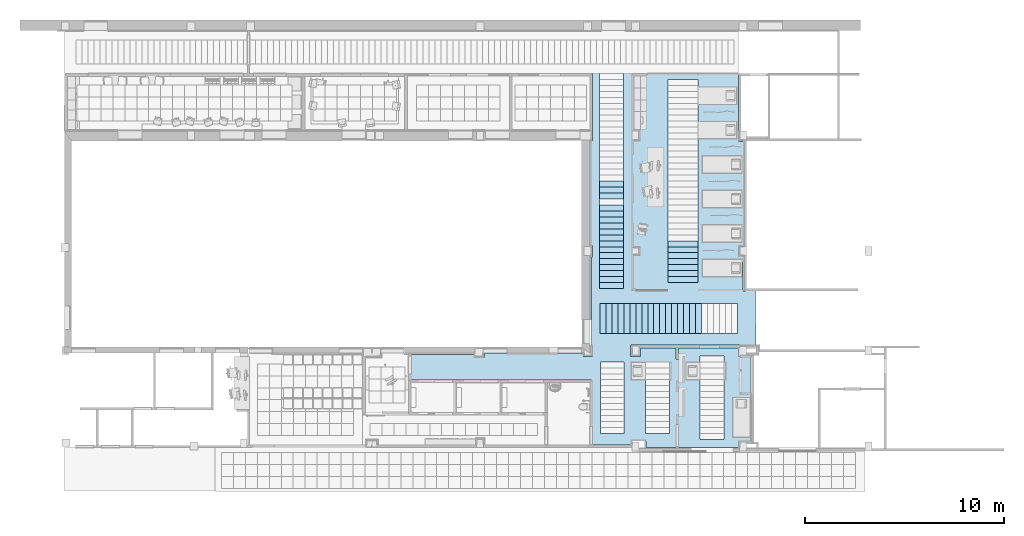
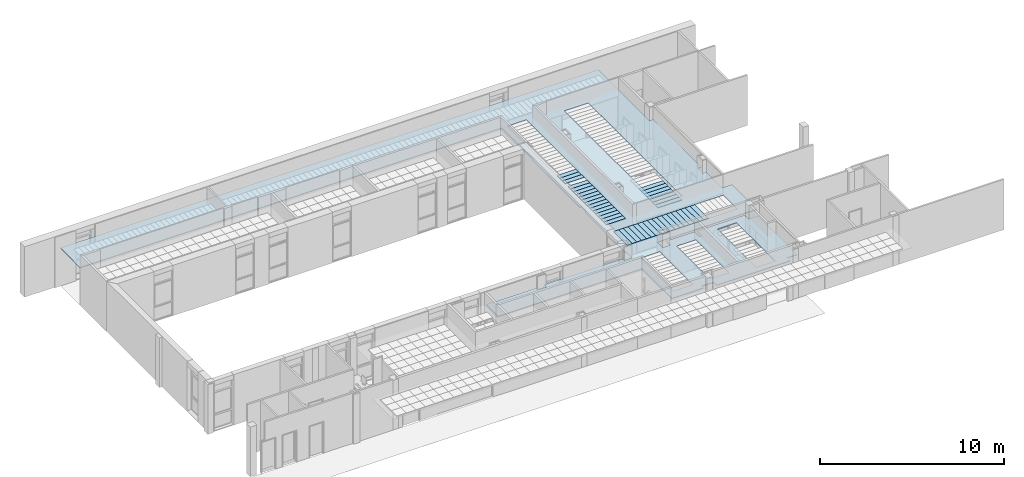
# One storey, part 3 of 68: 42 slabs.
"""IFC2X3 building model written with IfcOpenShell, lengths in millimetres."""

from ifc_helpers import new_model, entity, si_unit, converted_unit, derived_unit, money_unit, direction, frame, origin_with_axes, place, context, subcontext, project, spatial, polyline, outline, extrude, material, layer, layer_set, layer_usage, type_object, element, save


model = new_model("IFC2X3")

# Units and contexts
model_context = context("Model", 3, precision=0.01, world=origin_with_axes(), true_north=direction((0.0, 1.0)))
body_context = subcontext(model_context, "Body", "Model", "MODEL_VIEW")
ifc_project = project(units=[si_unit("LENGTHUNIT", "METRE", prefix="MILLI"), si_unit("AREAUNIT", "SQUARE_METRE"), si_unit("VOLUMEUNIT", "CUBIC_METRE"), converted_unit("PLANEANGLEUNIT", "DEGREE", entity("IfcPlaneAngleMeasure", 0.0174532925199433), si_unit("PLANEANGLEUNIT", "RADIAN"), dimensions=[0, 0, 0, 0, 0, 0, 0]), money_unit("USD"), converted_unit("TIMEUNIT", "Year", entity("IfcTimeMeasure", 31557600.0), si_unit("TIMEUNIT", "SECOND"), dimensions=[0, 0, 1, 0, 0, 0, 0]), si_unit("MASSUNIT", "GRAM", prefix="KILO"), si_unit("THERMODYNAMICTEMPERATUREUNIT", "DEGREE_CELSIUS"), si_unit("LUMINOUSINTENSITYUNIT", "LUMEN"), si_unit("ENERGYUNIT", "JOULE", prefix="MEGA"), derived_unit("THERMALCONDUCTANCEUNIT", [(si_unit("POWERUNIT", "WATT"), 1), (si_unit("LENGTHUNIT", "METRE"), -1), (si_unit("THERMODYNAMICTEMPERATUREUNIT", "KELVIN"), -1)]), derived_unit("SPECIFICHEATCAPACITYUNIT", [(si_unit("ENERGYUNIT", "JOULE"), 1), (si_unit("MASSUNIT", "GRAM", prefix="KILO"), -1), (si_unit("THERMODYNAMICTEMPERATUREUNIT", "KELVIN"), -1)]), derived_unit("MASSDENSITYUNIT", [(si_unit("MASSUNIT", "GRAM", prefix="KILO"), 1), (si_unit("VOLUMEUNIT", "CUBIC_METRE"), -1)])], contexts=[model_context])

# Site, building, storey
site_placement = place(None, origin_with_axes())
site = spatial("IfcSite", under=ifc_project, at=site_placement, Name="Sitio", CompositionType="ELEMENT")
building_placement = place(site_placement, origin_with_axes())
building = spatial("IfcBuilding", under=site, at=building_placement, Name="Construcción", CompositionType="ELEMENT")
storey_placement = place(building_placement, origin_with_axes())
storey = spatial("IfcBuildingStorey", under=building, at=storey_placement, Name="PLANTA 1ª", CompositionType="ELEMENT", Elevation=0.0)

# Slabs
ifc_material_1 = material(Name="ARQ_ME126_CelRas_Placa_Metallica")
ifc_layer_1 = layer(ifc_material_1, 50.0, ventilated="UNKNOWN")
ifc_layer_set_1 = layer_set([ifc_layer_1], Name="ARQ_ME126_CelRas_Placa_Metallica 50")
ifc_layer_usage_1 = layer_usage(ifc_layer_set_1, "AXIS3", "NEGATIVE", 50.0)
slab_type_1 = type_object("IfcSlabType", Name="ARQ_ME126_CelRas_Placa_Metallica 50", PredefinedType="NOTDEFINED")
slab_1_placement = place(storey_placement, frame((-881.1090049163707, -11348.19832695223, 2500.0), z_axis=(0.0, 0.0, 1.0), x_axis=(1.0, 0.0, 0.0)))
element("IfcSlab", 1, at=slab_1_placement, inside=storey, type_object=slab_type_1, material=ifc_layer_usage_1, Name="SLA - 026", PredefinedType="NOTDEFINED", context=body_context, shape_type="SweptSolid", body=[
    extrude(outline(polyline([(0.0, 0.0), (0.0, 1500.0), (-299.9999999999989, 1500.0), (-299.9999999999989, 0.0), (0.0, 0.0)])), frame((0.0, 0.0, -50.0), z_axis=(0.0, 0.0, 1.0), x_axis=(1.0, 0.0, 0.0)), (0.0, 0.0, 1.0), 50.0),
])
ifc_layer_usage_2 = layer_usage(ifc_layer_set_1, "AXIS3", "NEGATIVE", 50.0)
slab_2_placement = place(storey_placement, frame((-1192.609613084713, -8799.146944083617, 2500.0), z_axis=(0.0, 0.0, 1.0), x_axis=(1.0, 0.0, 0.0)))
element("IfcSlab", 2, at=slab_2_placement, inside=storey, type_object=slab_type_1, material=ifc_layer_usage_2, Name="SLA - 026", PredefinedType="NOTDEFINED", context=body_context, shape_type="SweptSolid", body=[
    extrude(outline(polyline([(0.0, 0.0), (1199.999999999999, 0.0), (1199.999999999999, 299.9999999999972), (0.0, 299.9999999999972), (0.0, 0.0)])), frame((0.0, 0.0, -50.0), z_axis=(0.0, 0.0, 1.0), x_axis=(1.0, 0.0, 0.0)), (0.0, 0.0, 1.0), 50.0),
])
ifc_layer_usage_3 = layer_usage(ifc_layer_set_1, "AXIS3", "NEGATIVE", 50.0)
slab_3_placement = place(storey_placement, frame((-1192.609613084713, -8499.146944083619, 2500.0), z_axis=(0.0, 0.0, 1.0), x_axis=(1.0, 0.0, 0.0)))
element("IfcSlab", 3, at=slab_3_placement, inside=storey, type_object=slab_type_1, material=ifc_layer_usage_3, Name="SLA - 026", PredefinedType="NOTDEFINED", context=body_context, shape_type="SweptSolid", body=[
    extrude(outline(polyline([(0.0, 0.0), (1199.999999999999, 0.0), (1199.999999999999, 299.9999999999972), (0.0, 299.9999999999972), (0.0, 0.0)])), frame((0.0, 0.0, -50.0), z_axis=(0.0, 0.0, 1.0), x_axis=(1.0, 0.0, 0.0)), (0.0, 0.0, 1.0), 50.0),
])
ifc_layer_usage_4 = layer_usage(ifc_layer_set_1, "AXIS3", "NEGATIVE", 50.0)
slab_4_placement = place(storey_placement, frame((-1192.609613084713, -8199.146944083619, 2500.0), z_axis=(0.0, 0.0, 1.0), x_axis=(1.0, 0.0, 0.0)))
element("IfcSlab", 4, at=slab_4_placement, inside=storey, type_object=slab_type_1, material=ifc_layer_usage_4, Name="SLA - 026", PredefinedType="NOTDEFINED", context=body_context, shape_type="SweptSolid", body=[
    extrude(outline(polyline([(0.0, 0.0), (1199.999999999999, 0.0), (1199.999999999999, 299.9999999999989), (0.0, 299.9999999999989), (0.0, 0.0)])), frame((0.0, 0.0, -50.0), z_axis=(0.0, 0.0, 1.0), x_axis=(1.0, 0.0, 0.0)), (0.0, 0.0, 1.0), 50.0),
])
ifc_layer_usage_5 = layer_usage(ifc_layer_set_1, "AXIS3", "NEGATIVE", 50.0)
slab_5_placement = place(storey_placement, frame((-1192.609613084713, -7899.14694408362, 2500.0), z_axis=(0.0, 0.0, 1.0), x_axis=(1.0, 0.0, 0.0)))
element("IfcSlab", 5, at=slab_5_placement, inside=storey, type_object=slab_type_1, material=ifc_layer_usage_5, Name="SLA - 026", PredefinedType="NOTDEFINED", context=body_context, shape_type="SweptSolid", body=[
    extrude(outline(polyline([(0.0, 0.0), (1199.999999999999, 0.0), (1199.999999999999, 299.9999999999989), (0.0, 299.9999999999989), (0.0, 0.0)])), frame((0.0, 0.0, -50.0), z_axis=(0.0, 0.0, 1.0), x_axis=(1.0, 0.0, 0.0)), (0.0, 0.0, 1.0), 50.0),
])
ifc_layer_usage_6 = layer_usage(ifc_layer_set_1, "AXIS3", "NEGATIVE", 50.0)
slab_6_placement = place(storey_placement, frame((-1192.609613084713, -7299.146944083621, 2500.0), z_axis=(0.0, 0.0, 1.0), x_axis=(1.0, 0.0, 0.0)))
element("IfcSlab", 6, at=slab_6_placement, inside=storey, type_object=slab_type_1, material=ifc_layer_usage_6, Name="SLA - 026", PredefinedType="NOTDEFINED", context=body_context, shape_type="SweptSolid", body=[
    extrude(outline(polyline([(0.0, 0.0), (1199.999999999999, 0.0), (1199.999999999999, 299.9999999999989), (0.0, 299.9999999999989), (0.0, 0.0)])), frame((0.0, 0.0, -50.0), z_axis=(0.0, 0.0, 1.0), x_axis=(1.0, 0.0, 0.0)), (0.0, 0.0, 1.0), 50.0),
])
ifc_layer_usage_7 = layer_usage(ifc_layer_set_1, "AXIS3", "NEGATIVE", 50.0)
slab_7_placement = place(storey_placement, frame((-1192.609613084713, -7599.146944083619, 2500.0), z_axis=(0.0, 0.0, 1.0), x_axis=(1.0, 0.0, 0.0)))
element("IfcSlab", 7, at=slab_7_placement, inside=storey, type_object=slab_type_1, material=ifc_layer_usage_7, Name="SLA - 026", PredefinedType="NOTDEFINED", context=body_context, shape_type="SweptSolid", body=[
    extrude(outline(polyline([(0.0, 0.0), (1199.999999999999, 0.0), (1199.999999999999, 299.9999999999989), (0.0, 299.9999999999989), (0.0, 0.0)])), frame((0.0, 0.0, -50.0), z_axis=(0.0, 0.0, 1.0), x_axis=(1.0, 0.0, 0.0)), (0.0, 0.0, 1.0), 50.0),
])
ifc_layer_usage_8 = layer_usage(ifc_layer_set_1, "AXIS3", "NEGATIVE", 50.0)
slab_8_placement = place(storey_placement, frame((-1192.609613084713, -6999.14694408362, 2500.0), z_axis=(0.0, 0.0, 1.0), x_axis=(1.0, 0.0, 0.0)))
element("IfcSlab", 8, at=slab_8_placement, inside=storey, type_object=slab_type_1, material=ifc_layer_usage_8, Name="SLA - 026", PredefinedType="NOTDEFINED", context=body_context, shape_type="SweptSolid", body=[
    extrude(outline(polyline([(0.0, 0.0), (1199.999999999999, 0.0), (1199.999999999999, 299.9999999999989), (0.0, 299.9999999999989), (0.0, 0.0)])), frame((0.0, 0.0, -50.0), z_axis=(0.0, 0.0, 1.0), x_axis=(1.0, 0.0, 0.0)), (0.0, 0.0, 1.0), 50.0),
])
ifc_layer_usage_9 = layer_usage(ifc_layer_set_1, "AXIS3", "NEGATIVE", 50.0)
slab_9_placement = place(storey_placement, frame((-1192.609613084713, -6699.146944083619, 2500.0), z_axis=(0.0, 0.0, 1.0), x_axis=(1.0, 0.0, 0.0)))
element("IfcSlab", 9, at=slab_9_placement, inside=storey, type_object=slab_type_1, material=ifc_layer_usage_9, Name="SLA - 026", PredefinedType="NOTDEFINED", context=body_context, shape_type="SweptSolid", body=[
    extrude(outline(polyline([(0.0, 0.0), (1199.999999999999, 0.0), (1199.999999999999, 299.9999999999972), (0.0, 299.9999999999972), (0.0, 0.0)])), frame((0.0, 0.0, -50.0), z_axis=(0.0, 0.0, 1.0), x_axis=(1.0, 0.0, 0.0)), (0.0, 0.0, 1.0), 50.0),
])
ifc_layer_usage_10 = layer_usage(ifc_layer_set_1, "AXIS3", "NEGATIVE", 50.0)
slab_10_placement = place(storey_placement, frame((-1192.609613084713, -6399.14694408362, 2500.0), z_axis=(0.0, 0.0, 1.0), x_axis=(1.0, 0.0, 0.0)))
element("IfcSlab", 10, at=slab_10_placement, inside=storey, type_object=slab_type_1, material=ifc_layer_usage_10, Name="SLA - 026", PredefinedType="NOTDEFINED", context=body_context, shape_type="SweptSolid", body=[
    extrude(outline(polyline([(0.0, 0.0), (1199.999999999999, 0.0), (1199.999999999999, 299.9999999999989), (0.0, 299.9999999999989), (0.0, 0.0)])), frame((0.0, 0.0, -50.0), z_axis=(0.0, 0.0, 1.0), x_axis=(1.0, 0.0, 0.0)), (0.0, 0.0, 1.0), 50.0),
])
ifc_layer_usage_11 = layer_usage(ifc_layer_set_1, "AXIS3", "NEGATIVE", 50.0)
slab_11_placement = place(storey_placement, frame((-1192.609613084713, -6099.146944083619, 2500.0), z_axis=(0.0, 0.0, 1.0), x_axis=(1.0, 0.0, 0.0)))
element("IfcSlab", 11, at=slab_11_placement, inside=storey, type_object=slab_type_1, material=ifc_layer_usage_11, Name="SLA - 026", PredefinedType="NOTDEFINED", context=body_context, shape_type="SweptSolid", body=[
    extrude(outline(polyline([(0.0, 0.0), (1199.999999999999, 0.0), (1199.999999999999, 299.9999999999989), (0.0, 299.9999999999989), (0.0, 0.0)])), frame((0.0, 0.0, -50.0), z_axis=(0.0, 0.0, 1.0), x_axis=(1.0, 0.0, 0.0)), (0.0, 0.0, 1.0), 50.0),
])
ifc_layer_usage_12 = layer_usage(ifc_layer_set_1, "AXIS3", "NEGATIVE", 50.0)
slab_12_placement = place(storey_placement, frame((-1192.609613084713, -5799.146944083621, 2500.0), z_axis=(0.0, 0.0, 1.0), x_axis=(1.0, 0.0, 0.0)))
element("IfcSlab", 12, at=slab_12_placement, inside=storey, type_object=slab_type_1, material=ifc_layer_usage_12, Name="SLA - 026", PredefinedType="NOTDEFINED", context=body_context, shape_type="SweptSolid", body=[
    extrude(outline(polyline([(0.0, 0.0), (1199.999999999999, 0.0), (1199.999999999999, 299.9999999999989), (0.0, 299.9999999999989), (0.0, 0.0)])), frame((0.0, 0.0, -50.0), z_axis=(0.0, 0.0, 1.0), x_axis=(1.0, 0.0, 0.0)), (0.0, 0.0, 1.0), 50.0),
])
ifc_layer_usage_13 = layer_usage(ifc_layer_set_1, "AXIS3", "NEGATIVE", 50.0)
slab_13_placement = place(storey_placement, frame((-1192.609613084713, -5499.14694408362, 2500.0), z_axis=(0.0, 0.0, 1.0), x_axis=(1.0, 0.0, 0.0)))
element("IfcSlab", 13, at=slab_13_placement, inside=storey, type_object=slab_type_1, material=ifc_layer_usage_13, Name="SLA - 026", PredefinedType="NOTDEFINED", context=body_context, shape_type="SweptSolid", body=[
    extrude(outline(polyline([(0.0, 0.0), (1199.999999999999, 0.0), (1199.999999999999, 299.9999999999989), (0.0, 299.9999999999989), (0.0, 0.0)])), frame((0.0, 0.0, -50.0), z_axis=(0.0, 0.0, 1.0), x_axis=(1.0, 0.0, 0.0)), (0.0, 0.0, 1.0), 50.0),
])
ifc_layer_usage_14 = layer_usage(ifc_layer_set_1, "AXIS3", "NEGATIVE", 50.0)
slab_14_placement = place(storey_placement, frame((-1192.609613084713, -9099.146944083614, 2500.0), z_axis=(0.0, 0.0, 1.0), x_axis=(1.0, 0.0, 0.0)))
element("IfcSlab", 14, at=slab_14_placement, inside=storey, type_object=slab_type_1, material=ifc_layer_usage_14, Name="SLA - 026", PredefinedType="NOTDEFINED", context=body_context, shape_type="SweptSolid", body=[
    extrude(outline(polyline([(0.0, 0.0), (1199.999999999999, 0.0), (1199.999999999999, 299.9999999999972), (0.0, 299.9999999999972), (0.0, 0.0)])), frame((0.0, 0.0, -50.0), z_axis=(0.0, 0.0, 1.0), x_axis=(1.0, 0.0, 0.0)), (0.0, 0.0, 1.0), 50.0),
])
ifc_layer_usage_15 = layer_usage(ifc_layer_set_1, "AXIS3", "NEGATIVE", 50.0)
slab_15_placement = place(storey_placement, frame((-1192.609613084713, -4299.146944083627, 2500.0), z_axis=(0.0, 0.0, 1.0), x_axis=(1.0, 0.0, 0.0)))
element("IfcSlab", 15, at=slab_15_placement, inside=storey, type_object=slab_type_1, material=ifc_layer_usage_15, Name="SLA - 026", PredefinedType="NOTDEFINED", context=body_context, shape_type="SweptSolid", body=[
    extrude(outline(polyline([(0.0, 0.0), (1199.999999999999, 0.0), (1199.999999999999, 299.9999999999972), (0.0, 299.9999999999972), (0.0, 0.0)])), frame((0.0, 0.0, -50.0), z_axis=(0.0, 0.0, 1.0), x_axis=(1.0, 0.0, 0.0)), (0.0, 0.0, 1.0), 50.0),
])
ifc_layer_usage_16 = layer_usage(ifc_layer_set_1, "AXIS3", "NEGATIVE", 50.0)
slab_16_placement = place(storey_placement, frame((-1192.609613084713, -3999.146944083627, 2500.0), z_axis=(0.0, 0.0, 1.0), x_axis=(1.0, 0.0, 0.0)))
element("IfcSlab", 16, at=slab_16_placement, inside=storey, type_object=slab_type_1, material=ifc_layer_usage_16, Name="SLA - 026", PredefinedType="NOTDEFINED", context=body_context, shape_type="SweptSolid", body=[
    extrude(outline(polyline([(0.0, 0.0), (1199.999999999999, 0.0), (1199.999999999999, 299.9999999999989), (0.0, 299.9999999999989), (0.0, 0.0)])), frame((0.0, 0.0, -50.0), z_axis=(0.0, 0.0, 1.0), x_axis=(1.0, 0.0, 0.0)), (0.0, 0.0, 1.0), 50.0),
])
ifc_layer_usage_17 = layer_usage(ifc_layer_set_1, "AXIS3", "NEGATIVE", 50.0)
slab_17_placement = place(storey_placement, frame((-1192.609613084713, -5199.146944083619, 2500.0), z_axis=(0.0, 0.0, 1.0), x_axis=(1.0, 0.0, 0.0)))
element("IfcSlab", 17, at=slab_17_placement, inside=storey, type_object=slab_type_1, material=ifc_layer_usage_17, Name="SLA - 026", PredefinedType="NOTDEFINED", context=body_context, shape_type="SweptSolid", body=[
    extrude(outline(polyline([(0.0, 0.0), (1199.999999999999, 0.0), (1199.999999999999, 299.9999999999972), (0.0, 299.9999999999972), (0.0, 0.0)])), frame((0.0, 0.0, -50.0), z_axis=(0.0, 0.0, 1.0), x_axis=(1.0, 0.0, 0.0)), (0.0, 0.0, 1.0), 50.0),
])
ifc_layer_usage_18 = layer_usage(ifc_layer_set_1, "AXIS3", "NEGATIVE", 50.0)
slab_18_placement = place(storey_placement, frame((-1192.609613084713, -4599.146944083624, 2500.0), z_axis=(0.0, 0.0, 1.0), x_axis=(1.0, 0.0, 0.0)))
element("IfcSlab", 18, at=slab_18_placement, inside=storey, type_object=slab_type_1, material=ifc_layer_usage_18, Name="SLA - 026", PredefinedType="NOTDEFINED", context=body_context, shape_type="SweptSolid", body=[
    extrude(outline(polyline([(0.0, 0.0), (1199.999999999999, 0.0), (1199.999999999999, 299.9999999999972), (0.0, 299.9999999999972), (0.0, 0.0)])), frame((0.0, 0.0, -50.0), z_axis=(0.0, 0.0, 1.0), x_axis=(1.0, 0.0, 0.0)), (0.0, 0.0, 1.0), 50.0),
])
ifc_layer_usage_19 = layer_usage(ifc_layer_set_1, "AXIS3", "NEGATIVE", 50.0)
slab_19_placement = place(storey_placement, frame((3918.890995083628, -11348.19832695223, 2500.0), z_axis=(0.0, 0.0, 1.0), x_axis=(1.0, 0.0, 0.0)))
element("IfcSlab", 19, at=slab_19_placement, inside=storey, type_object=slab_type_1, material=ifc_layer_usage_19, Name="SLA - 026", PredefinedType="NOTDEFINED", context=body_context, shape_type="SweptSolid", body=[
    extrude(outline(polyline([(0.0, 0.0), (0.0, 1500.0), (-299.9999999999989, 1500.0), (-299.9999999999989, 0.0), (0.0, 0.0)])), frame((0.0, 0.0, -50.0), z_axis=(0.0, 0.0, 1.0), x_axis=(1.0, 0.0, 0.0)), (0.0, 0.0, 1.0), 50.0),
])
ifc_layer_usage_20 = layer_usage(ifc_layer_set_1, "AXIS3", "NEGATIVE", 50.0)
slab_20_placement = place(storey_placement, frame((3318.890995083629, -11348.19832695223, 2500.0), z_axis=(0.0, 0.0, 1.0), x_axis=(1.0, 0.0, 0.0)))
element("IfcSlab", 20, at=slab_20_placement, inside=storey, type_object=slab_type_1, material=ifc_layer_usage_20, Name="SLA - 026", PredefinedType="NOTDEFINED", context=body_context, shape_type="SweptSolid", body=[
    extrude(outline(polyline([(0.0, 0.0), (0.0, 1500.0), (-299.9999999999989, 1500.0), (-299.9999999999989, 0.0), (0.0, 0.0)])), frame((0.0, 0.0, -50.0), z_axis=(0.0, 0.0, 1.0), x_axis=(1.0, 0.0, 0.0)), (0.0, 0.0, 1.0), 50.0),
])
ifc_layer_usage_21 = layer_usage(ifc_layer_set_1, "AXIS3", "NEGATIVE", 50.0)
slab_21_placement = place(storey_placement, frame((3018.890995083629, -11348.19832695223, 2500.0), z_axis=(0.0, 0.0, 1.0), x_axis=(1.0, 0.0, 0.0)))
element("IfcSlab", 21, at=slab_21_placement, inside=storey, type_object=slab_type_1, material=ifc_layer_usage_21, Name="SLA - 026", PredefinedType="NOTDEFINED", context=body_context, shape_type="SweptSolid", body=[
    extrude(outline(polyline([(0.0, 0.0), (0.0, 1500.0), (-299.9999999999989, 1500.0), (-299.9999999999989, 0.0), (0.0, 0.0)])), frame((0.0, 0.0, -50.0), z_axis=(0.0, 0.0, 1.0), x_axis=(1.0, 0.0, 0.0)), (0.0, 0.0, 1.0), 50.0),
])
ifc_layer_usage_22 = layer_usage(ifc_layer_set_1, "AXIS3", "NEGATIVE", 50.0)
slab_22_placement = place(storey_placement, frame((2718.890995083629, -11348.19832695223, 2500.0), z_axis=(0.0, 0.0, 1.0), x_axis=(1.0, 0.0, 0.0)))
element("IfcSlab", 22, at=slab_22_placement, inside=storey, type_object=slab_type_1, material=ifc_layer_usage_22, Name="SLA - 026", PredefinedType="NOTDEFINED", context=body_context, shape_type="SweptSolid", body=[
    extrude(outline(polyline([(0.0, 0.0), (0.0, 1500.0), (-299.9999999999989, 1500.0), (-299.9999999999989, 0.0), (0.0, 0.0)])), frame((0.0, 0.0, -50.0), z_axis=(0.0, 0.0, 1.0), x_axis=(1.0, 0.0, 0.0)), (0.0, 0.0, 1.0), 50.0),
])
ifc_layer_usage_23 = layer_usage(ifc_layer_set_1, "AXIS3", "NEGATIVE", 50.0)
slab_23_placement = place(storey_placement, frame((2118.890995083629, -11348.19832695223, 2500.0), z_axis=(0.0, 0.0, 1.0), x_axis=(1.0, 0.0, 0.0)))
element("IfcSlab", 23, at=slab_23_placement, inside=storey, type_object=slab_type_1, material=ifc_layer_usage_23, Name="SLA - 026", PredefinedType="NOTDEFINED", context=body_context, shape_type="SweptSolid", body=[
    extrude(outline(polyline([(0.0, 0.0), (0.0, 1500.0), (-299.9999999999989, 1500.0), (-299.9999999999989, 0.0), (0.0, 0.0)])), frame((0.0, 0.0, -50.0), z_axis=(0.0, 0.0, 1.0), x_axis=(1.0, 0.0, 0.0)), (0.0, 0.0, 1.0), 50.0),
])
ifc_layer_usage_24 = layer_usage(ifc_layer_set_1, "AXIS3", "NEGATIVE", 50.0)
slab_24_placement = place(storey_placement, frame((1818.890995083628, -11348.19832695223, 2500.0), z_axis=(0.0, 0.0, 1.0), x_axis=(1.0, 0.0, 0.0)))
element("IfcSlab", 24, at=slab_24_placement, inside=storey, type_object=slab_type_1, material=ifc_layer_usage_24, Name="SLA - 026", PredefinedType="NOTDEFINED", context=body_context, shape_type="SweptSolid", body=[
    extrude(outline(polyline([(0.0, 0.0), (0.0, 1500.0), (-299.9999999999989, 1500.0), (-299.9999999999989, 0.0), (0.0, 0.0)])), frame((0.0, 0.0, -50.0), z_axis=(0.0, 0.0, 1.0), x_axis=(1.0, 0.0, 0.0)), (0.0, 0.0, 1.0), 50.0),
])
ifc_layer_usage_25 = layer_usage(ifc_layer_set_1, "AXIS3", "NEGATIVE", 50.0)
slab_25_placement = place(storey_placement, frame((1518.890995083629, -11348.19832695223, 2500.0), z_axis=(0.0, 0.0, 1.0), x_axis=(1.0, 0.0, 0.0)))
element("IfcSlab", 25, at=slab_25_placement, inside=storey, type_object=slab_type_1, material=ifc_layer_usage_25, Name="SLA - 026", PredefinedType="NOTDEFINED", context=body_context, shape_type="SweptSolid", body=[
    extrude(outline(polyline([(0.0, 0.0), (0.0, 1500.0), (-299.9999999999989, 1500.0), (-299.9999999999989, 0.0), (0.0, 0.0)])), frame((0.0, 0.0, -50.0), z_axis=(0.0, 0.0, 1.0), x_axis=(1.0, 0.0, 0.0)), (0.0, 0.0, 1.0), 50.0),
])
ifc_layer_usage_26 = layer_usage(ifc_layer_set_1, "AXIS3", "NEGATIVE", 50.0)
slab_26_placement = place(storey_placement, frame((1218.890995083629, -11348.19832695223, 2500.0), z_axis=(0.0, 0.0, 1.0), x_axis=(1.0, 0.0, 0.0)))
element("IfcSlab", 26, at=slab_26_placement, inside=storey, type_object=slab_type_1, material=ifc_layer_usage_26, Name="SLA - 026", PredefinedType="NOTDEFINED", context=body_context, shape_type="SweptSolid", body=[
    extrude(outline(polyline([(0.0, 0.0), (0.0, 1500.0), (-299.9999999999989, 1500.0), (-299.9999999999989, 0.0), (0.0, 0.0)])), frame((0.0, 0.0, -50.0), z_axis=(0.0, 0.0, 1.0), x_axis=(1.0, 0.0, 0.0)), (0.0, 0.0, 1.0), 50.0),
])
ifc_layer_usage_27 = layer_usage(ifc_layer_set_1, "AXIS3", "NEGATIVE", 50.0)
slab_27_placement = place(storey_placement, frame((918.890995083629, -11348.19832695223, 2500.0), z_axis=(0.0, 0.0, 1.0), x_axis=(1.0, 0.0, 0.0)))
element("IfcSlab", 27, at=slab_27_placement, inside=storey, type_object=slab_type_1, material=ifc_layer_usage_27, Name="SLA - 026", PredefinedType="NOTDEFINED", context=body_context, shape_type="SweptSolid", body=[
    extrude(outline(polyline([(0.0, 0.0), (0.0, 1500.0), (-299.9999999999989, 1500.0), (-299.9999999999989, 0.0), (0.0, 0.0)])), frame((0.0, 0.0, -50.0), z_axis=(0.0, 0.0, 1.0), x_axis=(1.0, 0.0, 0.0)), (0.0, 0.0, 1.0), 50.0),
])
ifc_layer_usage_28 = layer_usage(ifc_layer_set_1, "AXIS3", "NEGATIVE", 50.0)
slab_28_placement = place(storey_placement, frame((3618.890995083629, -11348.19832695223, 2500.0), z_axis=(0.0, 0.0, 1.0), x_axis=(1.0, 0.0, 0.0)))
element("IfcSlab", 28, at=slab_28_placement, inside=storey, type_object=slab_type_1, material=ifc_layer_usage_28, Name="SLA - 026", PredefinedType="NOTDEFINED", context=body_context, shape_type="SweptSolid", body=[
    extrude(outline(polyline([(0.0, 0.0), (0.0, 1500.0), (-299.9999999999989, 1500.0), (-299.9999999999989, 0.0), (0.0, 0.0)])), frame((0.0, 0.0, -50.0), z_axis=(0.0, 0.0, 1.0), x_axis=(1.0, 0.0, 0.0)), (0.0, 0.0, 1.0), 50.0),
])
ifc_layer_usage_29 = layer_usage(ifc_layer_set_1, "AXIS3", "NEGATIVE", 50.0)
slab_29_placement = place(storey_placement, frame((618.8909950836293, -11348.19832695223, 2500.0), z_axis=(0.0, 0.0, 1.0), x_axis=(1.0, 0.0, 0.0)))
element("IfcSlab", 29, at=slab_29_placement, inside=storey, type_object=slab_type_1, material=ifc_layer_usage_29, Name="SLA - 026", PredefinedType="NOTDEFINED", context=body_context, shape_type="SweptSolid", body=[
    extrude(outline(polyline([(0.0, 0.0), (0.0, 1500.0), (-299.9999999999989, 1500.0), (-299.9999999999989, 0.0), (0.0, 0.0)])), frame((0.0, 0.0, -50.0), z_axis=(0.0, 0.0, 1.0), x_axis=(1.0, 0.0, 0.0)), (0.0, 0.0, 1.0), 50.0),
])
ifc_layer_usage_30 = layer_usage(ifc_layer_set_1, "AXIS3", "NEGATIVE", 50.0)
slab_30_placement = place(storey_placement, frame((2418.890995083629, -11348.19832695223, 2500.0), z_axis=(0.0, 0.0, 1.0), x_axis=(1.0, 0.0, 0.0)))
element("IfcSlab", 30, at=slab_30_placement, inside=storey, type_object=slab_type_1, material=ifc_layer_usage_30, Name="SLA - 026", PredefinedType="NOTDEFINED", context=body_context, shape_type="SweptSolid", body=[
    extrude(outline(polyline([(0.0, 0.0), (0.0, 1500.0), (-299.9999999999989, 1500.0), (-299.9999999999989, 0.0), (0.0, 0.0)])), frame((0.0, 0.0, -50.0), z_axis=(0.0, 0.0, 1.0), x_axis=(1.0, 0.0, 0.0)), (0.0, 0.0, 1.0), 50.0),
])
ifc_layer_usage_31 = layer_usage(ifc_layer_set_1, "AXIS3", "NEGATIVE", 50.0)
slab_31_placement = place(storey_placement, frame((18.89099508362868, -11348.19832695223, 2500.0), z_axis=(0.0, 0.0, 1.0), x_axis=(1.0, 0.0, 0.0)))
element("IfcSlab", 31, at=slab_31_placement, inside=storey, type_object=slab_type_1, material=ifc_layer_usage_31, Name="SLA - 026", PredefinedType="NOTDEFINED", context=body_context, shape_type="SweptSolid", body=[
    extrude(outline(polyline([(0.0, 0.0), (0.0, 1500.0), (-299.9999999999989, 1500.0), (-299.9999999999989, 0.0), (0.0, 0.0)])), frame((0.0, 0.0, -50.0), z_axis=(0.0, 0.0, 1.0), x_axis=(1.0, 0.0, 0.0)), (0.0, 0.0, 1.0), 50.0),
])
ifc_layer_usage_32 = layer_usage(ifc_layer_set_1, "AXIS3", "NEGATIVE", 50.0)
slab_32_placement = place(storey_placement, frame((-281.1090049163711, -11348.19832695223, 2500.0), z_axis=(0.0, 0.0, 1.0), x_axis=(1.0, 0.0, 0.0)))
element("IfcSlab", 32, at=slab_32_placement, inside=storey, type_object=slab_type_1, material=ifc_layer_usage_32, Name="SLA - 026", PredefinedType="NOTDEFINED", context=body_context, shape_type="SweptSolid", body=[
    extrude(outline(polyline([(0.0, 0.0), (0.0, 1500.0), (-299.9999999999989, 1500.0), (-299.9999999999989, 0.0), (0.0, 0.0)])), frame((0.0, 0.0, -50.0), z_axis=(0.0, 0.0, 1.0), x_axis=(1.0, 0.0, 0.0)), (0.0, 0.0, 1.0), 50.0),
])
ifc_layer_usage_33 = layer_usage(ifc_layer_set_1, "AXIS3", "NEGATIVE", 50.0)
slab_33_placement = place(storey_placement, frame((318.8909950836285, -11348.19832695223, 2500.0), z_axis=(0.0, 0.0, 1.0), x_axis=(1.0, 0.0, 0.0)))
element("IfcSlab", 33, at=slab_33_placement, inside=storey, type_object=slab_type_1, material=ifc_layer_usage_33, Name="SLA - 026", PredefinedType="NOTDEFINED", context=body_context, shape_type="SweptSolid", body=[
    extrude(outline(polyline([(0.0, 0.0), (0.0, 1500.0), (-299.9999999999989, 1500.0), (-299.9999999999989, 0.0), (0.0, 0.0)])), frame((0.0, 0.0, -50.0), z_axis=(0.0, 0.0, 1.0), x_axis=(1.0, 0.0, 0.0)), (0.0, 0.0, 1.0), 50.0),
])
ifc_layer_usage_34 = layer_usage(ifc_layer_set_1, "AXIS3", "NEGATIVE", 50.0)
slab_34_placement = place(storey_placement, frame((-581.109004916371, -11348.19832695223, 2500.0), z_axis=(0.0, 0.0, 1.0), x_axis=(1.0, 0.0, 0.0)))
element("IfcSlab", 34, at=slab_34_placement, inside=storey, type_object=slab_type_1, material=ifc_layer_usage_34, Name="SLA - 026", PredefinedType="NOTDEFINED", context=body_context, shape_type="SweptSolid", body=[
    extrude(outline(polyline([(0.0, 0.0), (0.0, 1500.0), (-299.9999999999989, 1500.0), (-299.9999999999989, 0.0), (0.0, 0.0)])), frame((0.0, 0.0, -50.0), z_axis=(0.0, 0.0, 1.0), x_axis=(1.0, 0.0, 0.0)), (0.0, 0.0, 1.0), 50.0),
])
ifc_layer_usage_35 = layer_usage(ifc_layer_set_1, "AXIS3", "NEGATIVE", 50.0)
slab_35_placement = place(storey_placement, frame((3726.829256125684, -8199.146944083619, 2250.0), z_axis=(0.0, 0.0, 1.0), x_axis=(1.0, 0.0, 0.0)))
element("IfcSlab", 35, at=slab_35_placement, inside=storey, type_object=slab_type_1, material=ifc_layer_usage_35, Name="SLA - 026", PredefinedType="NOTDEFINED", context=body_context, shape_type="SweptSolid", body=[
    extrude(outline(polyline([(0.0, 0.0), (-1500.0, 0.0), (-1500.0, -299.9999999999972), (0.0, -299.9999999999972), (0.0, 0.0)])), frame((0.0, 0.0, -50.0), z_axis=(0.0, 0.0, 1.0), x_axis=(1.0, 0.0, 0.0)), (0.0, 0.0, 1.0), 50.0),
])
ifc_layer_usage_36 = layer_usage(ifc_layer_set_1, "AXIS3", "NEGATIVE", 50.0)
slab_36_placement = place(storey_placement, frame((3726.829256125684, -7899.14694408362, 2250.0), z_axis=(0.0, 0.0, 1.0), x_axis=(1.0, 0.0, 0.0)))
element("IfcSlab", 36, at=slab_36_placement, inside=storey, type_object=slab_type_1, material=ifc_layer_usage_36, Name="SLA - 026", PredefinedType="NOTDEFINED", context=body_context, shape_type="SweptSolid", body=[
    extrude(outline(polyline([(0.0, 0.0), (-1500.0, 0.0), (-1500.0, -299.9999999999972), (0.0, -299.9999999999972), (0.0, 0.0)])), frame((0.0, 0.0, -50.0), z_axis=(0.0, 0.0, 1.0), x_axis=(1.0, 0.0, 0.0)), (0.0, 0.0, 1.0), 50.0),
])
ifc_layer_usage_37 = layer_usage(ifc_layer_set_1, "AXIS3", "NEGATIVE", 50.0)
slab_37_placement = place(storey_placement, frame((3726.829256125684, -7299.14694408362, 2250.0), z_axis=(0.0, 0.0, 1.0), x_axis=(1.0, 0.0, 0.0)))
element("IfcSlab", 37, at=slab_37_placement, inside=storey, type_object=slab_type_1, material=ifc_layer_usage_37, Name="SLA - 026", PredefinedType="NOTDEFINED", context=body_context, shape_type="SweptSolid", body=[
    extrude(outline(polyline([(0.0, 0.0), (-1500.0, 0.0), (-1500.0, -299.9999999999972), (0.0, -299.9999999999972), (0.0, 0.0)])), frame((0.0, 0.0, -50.0), z_axis=(0.0, 0.0, 1.0), x_axis=(1.0, 0.0, 0.0)), (0.0, 0.0, 1.0), 50.0),
])
ifc_layer_usage_38 = layer_usage(ifc_layer_set_1, "AXIS3", "NEGATIVE", 50.0)
slab_38_placement = place(storey_placement, frame((3726.829256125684, -6999.14694408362, 2250.0), z_axis=(0.0, 0.0, 1.0), x_axis=(1.0, 0.0, 0.0)))
element("IfcSlab", 38, at=slab_38_placement, inside=storey, type_object=slab_type_1, material=ifc_layer_usage_38, Name="SLA - 026", PredefinedType="NOTDEFINED", context=body_context, shape_type="SweptSolid", body=[
    extrude(outline(polyline([(0.0, 0.0), (-1500.0, 0.0), (-1500.0, -299.9999999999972), (0.0, -299.9999999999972), (0.0, 0.0)])), frame((0.0, 0.0, -50.0), z_axis=(0.0, 0.0, 1.0), x_axis=(1.0, 0.0, 0.0)), (0.0, 0.0, 1.0), 50.0),
])
ifc_layer_usage_39 = layer_usage(ifc_layer_set_1, "AXIS3", "NEGATIVE", 50.0)
slab_39_placement = place(storey_placement, frame((3726.829256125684, -6699.14694408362, 2250.0), z_axis=(0.0, 0.0, 1.0), x_axis=(1.0, 0.0, 0.0)))
element("IfcSlab", 39, at=slab_39_placement, inside=storey, type_object=slab_type_1, material=ifc_layer_usage_39, Name="SLA - 026", PredefinedType="NOTDEFINED", context=body_context, shape_type="SweptSolid", body=[
    extrude(outline(polyline([(0.0, 0.0), (-1500.0, 0.0), (-1500.0, -299.9999999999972), (0.0, -299.9999999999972), (0.0, 0.0)])), frame((0.0, 0.0, -50.0), z_axis=(0.0, 0.0, 1.0), x_axis=(1.0, 0.0, 0.0)), (0.0, 0.0, 1.0), 50.0),
])
ifc_layer_usage_40 = layer_usage(ifc_layer_set_1, "AXIS3", "NEGATIVE", 50.0)
slab_40_placement = place(storey_placement, frame((3726.829256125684, -7599.146944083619, 2250.0), z_axis=(0.0, 0.0, 1.0), x_axis=(1.0, 0.0, 0.0)))
element("IfcSlab", 40, at=slab_40_placement, inside=storey, type_object=slab_type_1, material=ifc_layer_usage_40, Name="SLA - 026", PredefinedType="NOTDEFINED", context=body_context, shape_type="SweptSolid", body=[
    extrude(outline(polyline([(0.0, 0.0), (-1500.0, 0.0), (-1500.0, -299.9999999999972), (0.0, -299.9999999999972), (0.0, 0.0)])), frame((0.0, 0.0, -50.0), z_axis=(0.0, 0.0, 1.0), x_axis=(1.0, 0.0, 0.0)), (0.0, 0.0, 1.0), 50.0),
])
ifc_layer_usage_41 = layer_usage(ifc_layer_set_1, "AXIS3", "NEGATIVE", 50.0)
slab_41_placement = place(storey_placement, frame((3726.829256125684, -8499.146944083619, 2250.0), z_axis=(0.0, 0.0, 1.0), x_axis=(1.0, 0.0, 0.0)))
element("IfcSlab", 41, at=slab_41_placement, inside=storey, type_object=slab_type_1, material=ifc_layer_usage_41, Name="SLA - 026", PredefinedType="NOTDEFINED", context=body_context, shape_type="SweptSolid", body=[
    extrude(outline(polyline([(0.0, 0.0), (-1500.0, 0.0), (-1500.0, -299.9999999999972), (0.0, -299.9999999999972), (0.0, 0.0)])), frame((0.0, 0.0, -50.0), z_axis=(0.0, 0.0, 1.0), x_axis=(1.0, 0.0, 0.0)), (0.0, 0.0, 1.0), 50.0),
])
ifc_material_2 = material(Name="ARQ_CG064_CelRas_Guix_Continu")
ifc_layer_2 = layer(ifc_material_2, 53.0, ventilated="UNKNOWN")
ifc_layer_set_2 = layer_set([ifc_layer_2], Name="ARQ_CG064_CelRas_Guix_Continu 53")
ifc_layer_usage_42 = layer_usage(ifc_layer_set_2, "AXIS3", "NEGATIVE", 53.0)
slab_type_2 = type_object("IfcSlabType", Name="ARQ_CG064_CelRas_Guix_Continu 53", PredefinedType="NOTDEFINED")
slab_42_placement = place(storey_placement, frame((-28050.84818028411, 1700.853055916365, 2500.0), z_axis=(0.0, 0.0, 1.0), x_axis=(1.0, 0.0, 0.0)))
element("IfcSlab", 42, at=slab_42_placement, inside=storey, type_object=slab_type_2, material=ifc_layer_usage_42, Name="SLA - 013", PredefinedType="NOTDEFINED", context=body_context, shape_type="SweptSolid", body=[
    extrude(outline(polyline([(0.0, 0.0), (26348.73917542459, 0.0), (26494.73917542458, 0.0), (26494.73917542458, -3404.828879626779), (26431.73785965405, -3404.828879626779), (26431.73790751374, -8641.549040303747), (26506.73795903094, -8641.549039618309), (26506.73795903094, -9206.55112186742), (26434.58785780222, -9206.554584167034), (26434.79987953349, -13624.82887915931), (26497.95276594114, -13624.82887915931), (26497.95276594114, -14204.82904431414), (26014.73917340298, -14204.82904431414), (26014.73917340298, -14041.55025623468), (21065.45400794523, -14041.55025623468), (21065.45400794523, -14250.13508734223), (20559.45271337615, -14250.13508734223), (20559.45271337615, -14094.54959223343), (17394.99804886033, -14094.54959223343), (17393.74898012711, -15385.92516124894), (26447.2178218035, -15395.41705701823), (26441.62268182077, -18638.82886623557), (28426.7392279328, -18638.82887962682), (28426.7392279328, -18439.8287142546), (29179.73917536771, -18439.8287142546), (29179.73917536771, -18767.8287149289), (30673.76115293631, -18767.8287149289), (33829.73922793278, -18767.8287149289), (33829.73922793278, -18439.8287142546), (34429.73917536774, -18439.8287142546), (34429.73917536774, -14189.82887962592), (33829.73917536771, -14189.8288796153), (33814.73917536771, -13770.82887962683), (31883.7489306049, -13770.82887962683), (30819.76115293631, -13770.82887962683), (30819.76115293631, -14319.99415200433), (30673.76115293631, -14319.99415200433), (30673.76115293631, -13770.82887962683), (28894.73922793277, -13770.82887962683), (28894.73922793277, -14204.82887961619), (28414.73917536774, -14204.82887961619), (28414.73917536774, -13624.82887962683), (34692.73592102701, -13624.82887962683), (34678.72200985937, -10904.82225149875), (34054.73917536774, -10908.27405080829), (34061.73790646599, -9191.55025622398), (33841.73790646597, -9191.55025622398), (33841.73790646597, -8641.55009153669), (34061.73790646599, -8641.55009153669), (34061.73790646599, -3411.550256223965), (33821.73790646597, -3411.550256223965), (33821.73790646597, 2160.878881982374), (11.99877512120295, 2160.878881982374), (0.0, 0.0)]), holes=[polyline([(28058.23856719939, -10799.99999999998), (26858.23856719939, -10799.99999999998), (26858.23856719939, 0.0), (28058.23856719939, 0.0), (28058.23856719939, -10799.99999999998)]), polyline([(26869.73917536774, -13049.05138286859), (26869.73917536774, -11549.05138286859), (33769.73917536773, -11549.05138286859), (33769.73917536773, -13049.05138286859), (26869.73917536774, -13049.05138286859)]), polyline([(28088.84597065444, -18072.32896196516), (26888.84597065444, -18072.32896196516), (26888.84597065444, -14472.32896196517), (28088.84597065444, -14472.32896196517), (28088.84597065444, -18072.32896196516)]), polyline([(30360.21236928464, -18072.32896196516), (29160.21236928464, -18072.32896196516), (29160.21236928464, -14472.32896196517), (30360.21236928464, -14472.32896196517), (30360.21236928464, -18072.32896196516)]), polyline([(30277.67743640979, -10499.99999999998), (30277.67743640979, -300.0000000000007), (31777.67743640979, -300.0000000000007), (31777.67743640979, -10499.99999999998), (30277.67743640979, -10499.99999999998)]), polyline([(31883.7489306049, -14172.32896196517), (33083.74893060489, -14172.32896196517), (33083.74893060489, -18372.32896196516), (31883.7489306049, -18372.32896196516), (31883.7489306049, -14172.32896196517)])]), frame((0.0, 0.0, -53.0), z_axis=(0.0, 0.0, 1.0), x_axis=(1.0, 0.0, 0.0)), (0.0, 0.0, 1.0), 53.0),
])

save(model, "model.ifc")
